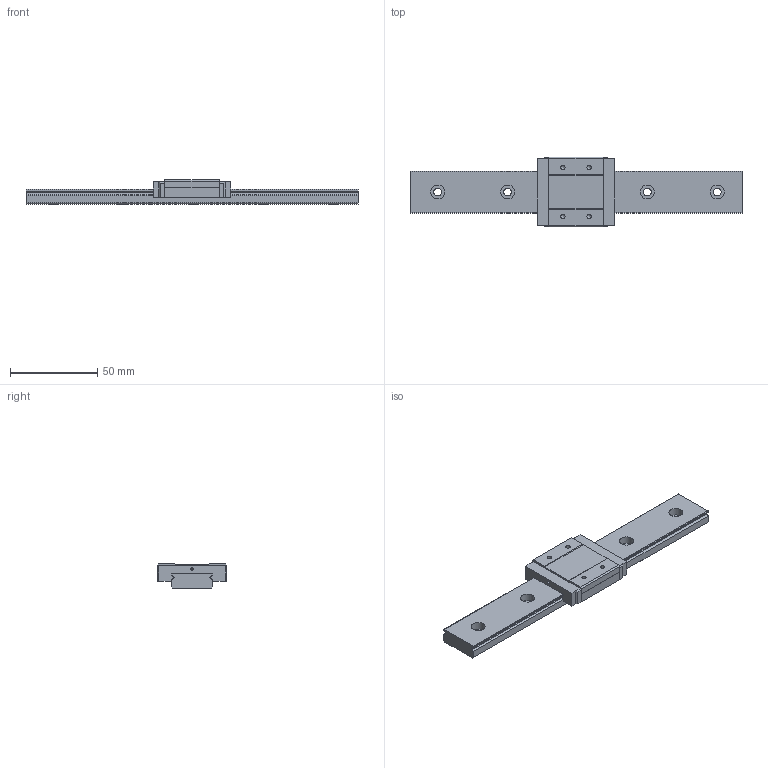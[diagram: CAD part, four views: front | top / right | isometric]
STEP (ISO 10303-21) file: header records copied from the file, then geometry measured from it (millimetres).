
FILE_DESCRIPTION((''),'2;1');
FILE_NAME('C:\Documents and Settings\土屋\My Documents\土屋移動用フォルダ\製品 (図面)\カタログ用3D\リニアガイド\EGM-W\EGM12W.stp','2015-02-21T13:16:17',('y'),(''),'Autodesk Inventor 11','Autodesk Inventor 11','');
FILE_SCHEMA(('AUTOMOTIVE_DESIGN { 1 0 10303 214 1 1 1 1 }'));
Length unit declared in the file: millimetre
Products named in the file (3): EGM12W; EGM12Wレール; EGM12Wベアリング
Assembly tree (2 placements, depth 2):
  EGM12W
    EGM12Wレール
    EGM12Wベアリング
Bounding box: 190 x 40 x 14 mm (x, y, z)
Volume: 48289.7 mm3; surface area: 19688.3 mm2
Topology: 2 solids, 2 shells, 97 faces, 254 edges, 168 vertices
Faces by surface type: plane 54, bspline 25, cylinder 18
Full cylindrical faces by diameter (mm): 1.4 x1
Entity records: 3153 total; most frequent: CARTESIAN_POINT 829, ORIENTED_EDGE 452, DIRECTION 446, EDGE_CURVE 226, VERTEX_POINT 160, VECTOR 160, LINE 160, AXIS2_PLACEMENT_3D 143
